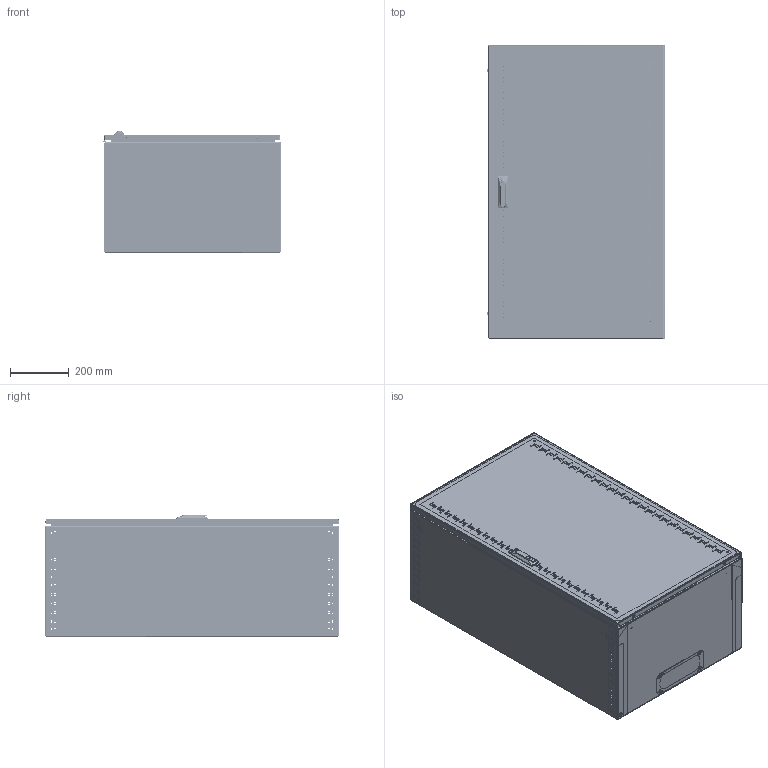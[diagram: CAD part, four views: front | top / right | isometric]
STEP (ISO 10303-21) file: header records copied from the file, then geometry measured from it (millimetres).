
FILE_DESCRIPTION (( 'STEP AP203' ), '1' );
FILE_NAME ('R5STI2040.STEP', '2019-07-16T11:58:49', ( '' ), ( '' ), 'SwSTEP 2.0', 'SolidWorks 2017', '' );
FILE_SCHEMA (( 'CONFIG_CONTROL_DESIGN' ));
Length unit declared in the file: millimetre
Products named in the file (39): AC00C061_AC00C061; RB.0374.03.01.0; R5STI2040; RB.0374.00.01.0_-00 (400); Handle Mesan (part 1); M6-DIN 6923 (CM100600)_straight; RB.0374.03.00.0 CÁ; RB.0374.00.02.0_-03 (20U); Handle Mesan (part 2); RB.0374.02.00.0 C縫-03 (1000x600x400); RB.0374.04.01.0; RB.0374.00.02.0 mirror_-07 (20U); Catch Mesan; RB.0374.05.01.0_-03 (1000x600); RB.0374.04.00.0 CÁ; RB.0374.01.01.0_-03 (1000x600x400); M6x12-DIN 6921_stright; Handle Mesan (part 3); AC00C398; RB.0048.02.01.0; RB.0374.01.02.0_-03 (1000x600); AC00C401_AC00C401; 4.8x13 DIN 7981 (R5A07)_straight; Ì6õ12-A5100231_thread; AC00C399; Ì6õ20-A5100001_straight; MirrorRB.0374.00.01.0_-00 (400)<As Machined>; M6x10-A1100004_straight; RB.0374.05.00.0 捘_-03 (1000x600); M4x8 GOST 17475-80 (DIN 965)_straight; Ì6õ12-A5100231_straight; MirrorMirrorRB.0374.00.01.0_-00 (400)<As Machined><As Machined>; Handle 308 Mesan; AC00C112; AC00C383; RB.0374.01.00.0 C縫-03 (1000x600x400); AC00C380; RB.0374.06.00.0 捘_-03 (1000x600); PF 7,5x15 door STI_1000x0600
Assembly tree (100 placements, depth 4):
  R5STI2040
    RB.0374.02.00.0 C縫-03 (1000x600x400)
      RB.0374.01.00.0 C縫-03 (1000x600x400)
        RB.0374.01.01.0_-03 (1000x600x400)
        RB.0374.01.02.0_-03 (1000x600)
        Ì6õ20-A5100001_straight  x4
        Ì6õ12-A5100231_straight  x6
      RB.0374.03.00.0 CÁ
        RB.0374.03.01.0
        Ì6õ12-A5100231_straight  x4
      RB.0374.04.00.0 CÁ  x2
        RB.0374.04.01.0
        Ì6õ12-A5100231_straight
      RB.0048.02.01.0  x2
      AC00C399  x2
      M4x8 GOST 17475-80 (DIN 965)_straight  x4
      AC00C383  x2
      AC00C061_AC00C061  x2
      M6-DIN 6923 (CM100600)_straight  x12
    RB.0374.06.00.0 捘_-03 (1000x600)
      RB.0374.05.00.0 捘_-03 (1000x600)
        RB.0374.05.01.0_-03 (1000x600)
        AC00C398  x2
        Ì6õ12-A5100231_straight
        Ì6õ12-A5100231_thread
      AC00C112  x4
      AC00C061_AC00C061  x2
      PF 7,5x15 door STI_1000x0600
      Handle 308 Mesan
        Handle Mesan (part 1)
        Handle Mesan (part 2)
        Catch Mesan
        Handle Mesan (part 3)
        4.8x13 DIN 7981 (R5A07)_straight  x3
        M6x10-A1100004_straight
    RB.0374.00.01.0_-00 (400)
    RB.0374.00.02.0_-03 (20U)
    RB.0374.00.02.0 mirror_-07 (20U)
    M6x12-DIN 6921_stright  x4
    M6-DIN 6923 (CM100600)_straight  x12
    AC00C401_AC00C401  x2
    MirrorRB.0374.00.01.0_-00 (400)<As Machined>  x2
    MirrorMirrorRB.0374.00.01.0_-00 (400)<As Machined><As Machined>
    AC00C380  x2
Bounding box: 603.87 x 1003 x 414.97 mm (x, y, z)
Volume: 4127990.1 mm3; surface area: 5915749.6 mm2
Topology: 140 solids, 140 shells, 7062 faces, 18628 edges, 12006 vertices
Faces by surface type: plane 4217, cylinder 1164, bspline 1002, cone 479, torus 174, sphere 26
Entity records: 274014 total; most frequent: CARTESIAN_POINT 133476, ORIENTED_EDGE 29796, DIRECTION 23737, EDGE_CURVE 14898, VECTOR 11007, LINE 11007, VERTEX_POINT 9747, EDGE_LOOP 6957
